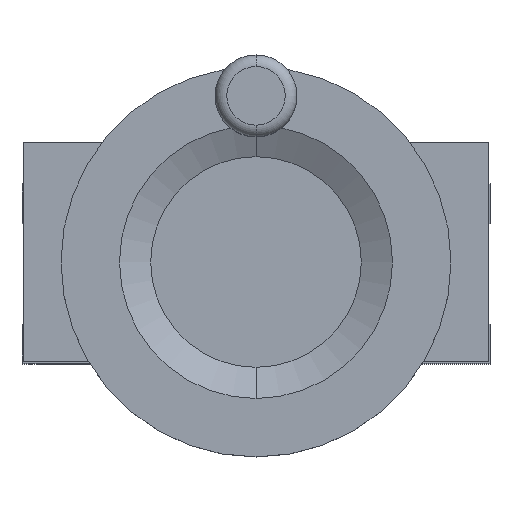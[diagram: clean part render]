
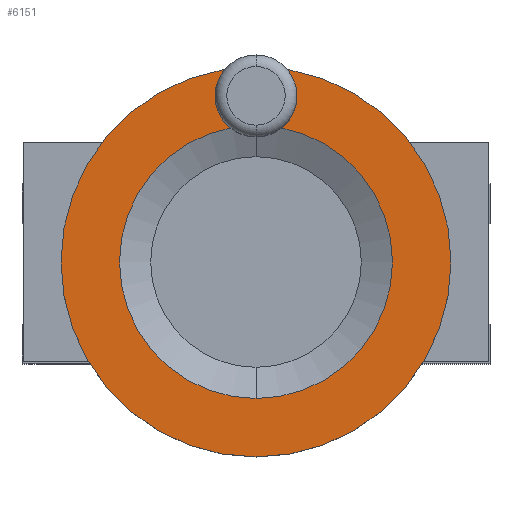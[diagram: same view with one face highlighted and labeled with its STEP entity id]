
A CAD part, top view. The second image highlights one B-rep face of the part: STEP entity #6151.
In plain terms, the highlighted planar face has unit normal (0, 0, 1).
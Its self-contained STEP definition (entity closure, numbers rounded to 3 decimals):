
#60 = CARTESIAN_POINT ( 'NONE',  ( 0., -11.2, 181.5 ) ) ;
#704 = CARTESIAN_POINT ( 'NONE',  ( 0., 61.3, 181.5 ) ) ;
#992 = CARTESIAN_POINT ( 'NONE',  ( 0., 58.8, 181.5 ) ) ;
#2533 = CIRCLE ( 'NONE', #2534, 35. ) ;
#2534 = AXIS2_PLACEMENT_3D ( 'NONE', #2535, #2536, #2537 ) ;
#2535 = CARTESIAN_POINT ( 'NONE',  ( 0., 23.8, 181.5 ) ) ;
#2536 = DIRECTION ( 'NONE',  ( 0., 0., -1. ) ) ;
#2537 = DIRECTION ( 'NONE',  ( 0., 1., 0. ) ) ;
#3660 = CIRCLE ( 'NONE', #3661, 35. ) ;
#3661 = AXIS2_PLACEMENT_3D ( 'NONE', #3665, #3666, #3667 ) ;
#3665 = CARTESIAN_POINT ( 'NONE',  ( 0., 23.8, 181.5 ) ) ;
#3666 = DIRECTION ( 'NONE',  ( 0., 0., -1. ) ) ;
#3667 = DIRECTION ( 'NONE',  ( 0., 1., 0. ) ) ;
#3865 = CARTESIAN_POINT ( 'NONE',  ( 0., -26.2, 181.5 ) ) ;
#3942 = CARTESIAN_POINT ( 'NONE',  ( 0., 73.8, 181.5 ) ) ;
#4081 = CIRCLE ( 'NONE', #4082, 50. ) ;
#4082 = AXIS2_PLACEMENT_3D ( 'NONE', #4083, #4084, #4085 ) ;
#4083 = CARTESIAN_POINT ( 'NONE',  ( 0., 23.8, 181.5 ) ) ;
#4084 = DIRECTION ( 'NONE',  ( 0., 0., -1. ) ) ;
#4085 = DIRECTION ( 'NONE',  ( 0., 1., 0. ) ) ;
#4238 = CIRCLE ( 'NONE', #4239, 5. ) ;
#4239 = AXIS2_PLACEMENT_3D ( 'NONE', #4240, #4241, #4243 ) ;
#4240 = CARTESIAN_POINT ( 'NONE',  ( 0., 66.3, 181.5 ) ) ;
#4241 = DIRECTION ( 'NONE',  ( 0., 0., 1. ) ) ;
#4243 = DIRECTION ( 'NONE',  ( 0., -1., 0. ) ) ;
#4709 = VERTEX_POINT ( 'NONE', #9760 ) ;
#4743 = EDGE_CURVE ( 'NONE', #7296, #4709, #9951, .T. ) ;
#5004 = VERTEX_POINT ( 'NONE', #992 ) ;
#5719 = EDGE_CURVE ( 'NONE', #6467, #5004, #3660, .T. ) ;
#5812 = VERTEX_POINT ( 'NONE', #3865 ) ;
#5852 = VERTEX_POINT ( 'NONE', #3942 ) ;
#5896 = EDGE_CURVE ( 'NONE', #5852, #5812, #4081, .T. ) ;
#5965 = EDGE_CURVE ( 'NONE', #4709, #7296, #4238, .T. ) ;
#5974 = ORIENTED_EDGE ( 'NONE', *, *, #6430, .F. ) ;
#6027 = ORIENTED_EDGE ( 'NONE', *, *, #5965, .F. ) ;
#6065 = ORIENTED_EDGE ( 'NONE', *, *, #5896, .F. ) ;
#6121 = EDGE_LOOP ( 'NONE', ( #6027, #6408 ) ) ;
#6151 = ADVANCED_FACE ( 'NONE', ( #8502, #8503, #8504 ), #8506, .T. ) ;
#6158 = EDGE_LOOP ( 'NONE', ( #6065, #5974 ) ) ;
#6194 = ORIENTED_EDGE ( 'NONE', *, *, #9509, .T. ) ;
#6287 = ORIENTED_EDGE ( 'NONE', *, *, #5719, .T. ) ;
#6370 = EDGE_LOOP ( 'NONE', ( #6287, #6194 ) ) ;
#6408 = ORIENTED_EDGE ( 'NONE', *, *, #4743, .F. ) ;
#6430 = EDGE_CURVE ( 'NONE', #5812, #5852, #10159, .T. ) ;
#6467 = VERTEX_POINT ( 'NONE', #60 ) ;
#7296 = VERTEX_POINT ( 'NONE', #704 ) ;
#8502 = FACE_BOUND ( 'NONE', #6121, .T. ) ;
#8503 = FACE_BOUND ( 'NONE', #6370, .T. ) ;
#8504 = FACE_OUTER_BOUND ( 'NONE', #6158, .T. ) ;
#8506 = PLANE ( 'NONE',  #8507 ) ;
#8507 = AXIS2_PLACEMENT_3D ( 'NONE', #8508, #8509, #8510 ) ;
#8508 = CARTESIAN_POINT ( 'NONE',  ( 0., 73.8, 181.5 ) ) ;
#8509 = DIRECTION ( 'NONE',  ( 0., 0., 1. ) ) ;
#8510 = DIRECTION ( 'NONE',  ( 0., -1., 0. ) ) ;
#9509 = EDGE_CURVE ( 'NONE', #5004, #6467, #2533, .T. ) ;
#9760 = CARTESIAN_POINT ( 'NONE',  ( 0., 71.3, 181.5 ) ) ;
#9951 = CIRCLE ( 'NONE', #9952, 5. ) ;
#9952 = AXIS2_PLACEMENT_3D ( 'NONE', #9953, #9954, #9955 ) ;
#9953 = CARTESIAN_POINT ( 'NONE',  ( 0., 66.3, 181.5 ) ) ;
#9954 = DIRECTION ( 'NONE',  ( 0., 0., 1. ) ) ;
#9955 = DIRECTION ( 'NONE',  ( 0., -1., 0. ) ) ;
#10159 = CIRCLE ( 'NONE', #10160, 50. ) ;
#10160 = AXIS2_PLACEMENT_3D ( 'NONE', #10161, #10162, #10163 ) ;
#10161 = CARTESIAN_POINT ( 'NONE',  ( 0., 23.8, 181.5 ) ) ;
#10162 = DIRECTION ( 'NONE',  ( 0., 0., -1. ) ) ;
#10163 = DIRECTION ( 'NONE',  ( 0., 1., 0. ) ) ;
